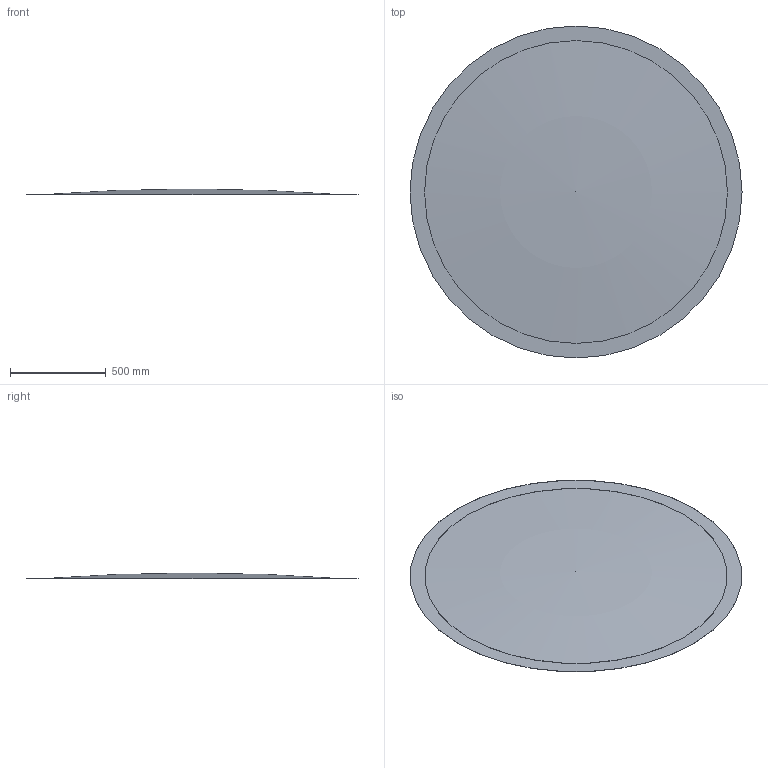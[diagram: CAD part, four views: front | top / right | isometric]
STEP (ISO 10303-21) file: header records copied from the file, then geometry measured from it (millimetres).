
FILE_DESCRIPTION( ( 'Unknown' ), '1' );
FILE_NAME( 'C:/Users/work/Documents/Solid Edge/heavy_gas_cherenkov/step/window.step', 'Unknown', ( 'Unknown' ), ( 'Unknown' ), 'PSStep 10.1', 'Unknown', ' ' );
FILE_SCHEMA( ( 'AUTOMOTIVE_DESIGN { 1 0 10303 214 1 1 1 1 }' ) );
Length unit declared in the file: millimetre
Products named in the file (1): 1
Bounding box: 1732.4 x 1732.4 x 31.02 mm (x, y, z)
Volume: 2397731.6 mm3; surface area: 4725473.7 mm2
Topology: 1 solids, 1 shells, 5 faces, 11 edges, 8 vertices
Faces by surface type: sphere 2, plane 2, cylinder 1
Full cylindrical faces by diameter (mm): 1732.4 x1
Entity records: 150 total; most frequent: DIRECTION 20, CARTESIAN_POINT 14, AXIS2_PLACEMENT_3D 10, EDGE_LOOP 8, ORIENTED_EDGE 8, FACE_OUTER_BOUND 6, STYLED_ITEM 5, PRESENTATION_STYLE_ASSIGNMENT 5
